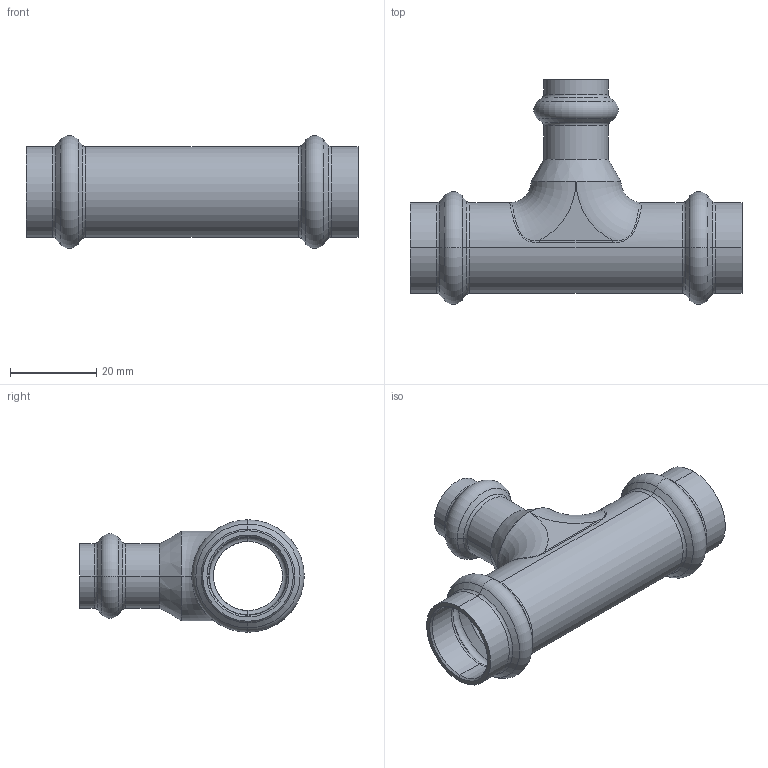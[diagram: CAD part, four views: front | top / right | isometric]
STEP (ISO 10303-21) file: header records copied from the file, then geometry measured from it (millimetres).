
FILE_DESCRIPTION (( 'STEP AP203' ), '1' );
FILE_NAME ('SP5130 Ø18-12-18.STEP', '2017-04-25T14:14:10', ( '' ), ( '' ), 'SwSTEP 2.0', 'SolidWorks 2016', '' );
FILE_SCHEMA (( 'CONFIG_CONTROL_DESIGN' ));
Length unit declared in the file: millimetre
Products named in the file (1): SP5130 Ø18-12-18
Bounding box: 77 x 52.05 x 26.1 mm (x, y, z)
Volume: 11603.8 mm3; surface area: 13135.8 mm2
Topology: 1 solids, 1 shells, 128 faces, 268 edges, 140 vertices
Faces by surface type: torus 44, cone 36, cylinder 35, plane 7, bspline 6
Entity records: 4803 total; most frequent: CARTESIAN_POINT 1973, DIRECTION 666, ORIENTED_EDGE 528, AXIS2_PLACEMENT_3D 297, EDGE_CURVE 264, CIRCLE 174, VERTEX_POINT 140, EDGE_LOOP 134
